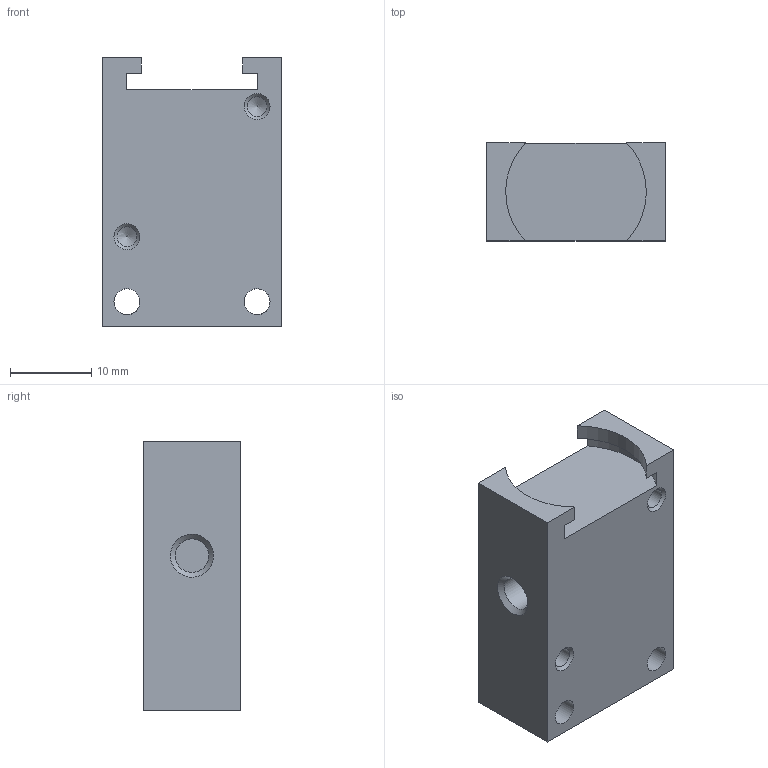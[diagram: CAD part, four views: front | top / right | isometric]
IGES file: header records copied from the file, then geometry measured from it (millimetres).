
Global section: file name: 305_07_00; native system: Autodesk Inventor 2014; preprocessor: unknown; author: A. Manieri; organization: Pneumax S.p.A.; date: 20161004.150800; units: millimetre
Bounding box: 22 x 12 x 33 mm (x, y, z)
Volume: 7089.8 mm3; surface area: 3428.7 mm2
Topology: 1 solids, 1 shells, 28 faces, 80 edges, 56 vertices
Faces by surface type: bspline 28
